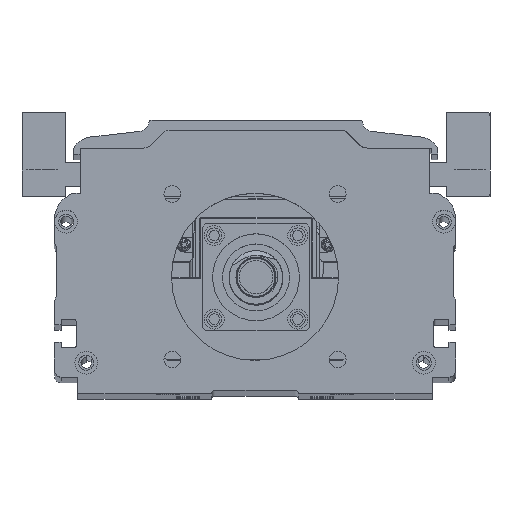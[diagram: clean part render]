
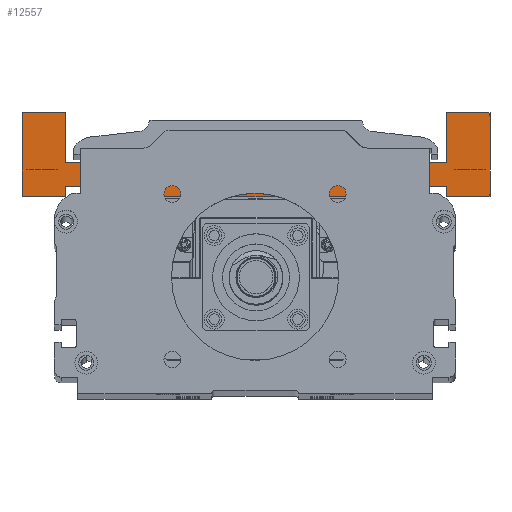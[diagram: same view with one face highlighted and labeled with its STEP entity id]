
A CAD part, top view. The second image highlights one B-rep face of the part: STEP entity #12557.
In plain terms, the highlighted planar face has unit normal (0, 0, 1) as drawn and (0, 0, -1) by its records, which use the part's own axes.
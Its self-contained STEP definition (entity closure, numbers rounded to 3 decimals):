
#30 = ORIENTED_EDGE ( 'NONE', *, *, #111524, .F. ) ;
#145 = VECTOR ( 'NONE', #18537, 1000. ) ;
#1026 = LINE ( 'NONE', #67263, #129481 ) ;
#2133 = DIRECTION ( 'NONE',  ( 1., 0., 0. ) ) ;
#2222 = CARTESIAN_POINT ( 'NONE',  ( 0., 0., 0. ) ) ;
#3971 = CARTESIAN_POINT ( 'NONE',  ( 121., -25., 0. ) ) ;
#3987 = EDGE_CURVE ( 'NONE', #6447, #62991, #17290, .T. ) ;
#4565 = VECTOR ( 'NONE', #101633, 1000. ) ;
#5262 = CARTESIAN_POINT ( 'NONE',  ( 42., -15., 0. ) ) ;
#6338 = VECTOR ( 'NONE', #101830, 1000. ) ;
#6447 = VERTEX_POINT ( 'NONE', #19418 ) ;
#8447 = EDGE_CURVE ( 'NONE', #41242, #6447, #18481, .T. ) ;
#9831 = CARTESIAN_POINT ( 'NONE',  ( 19., -25., 0. ) ) ;
#10353 = ORIENTED_EDGE ( 'NONE', *, *, #100833, .F. ) ;
#12557 = ADVANCED_FACE ( 'NONE', ( #63911 ), #19341, .F. ) ;
#13192 = VECTOR ( 'NONE', #2133, 1000. ) ;
#16396 = ORIENTED_EDGE ( 'NONE', *, *, #84420, .F. ) ;
#16492 = ORIENTED_EDGE ( 'NONE', *, *, #121159, .F. ) ;
#17050 = EDGE_CURVE ( 'NONE', #106799, #103905, #52464, .T. ) ;
#17290 = LINE ( 'NONE', #40675, #121822 ) ;
#17736 = DIRECTION ( 'NONE',  ( -1., 0., 0. ) ) ;
#18178 = VECTOR ( 'NONE', #94846, 1000. ) ;
#18481 = LINE ( 'NONE', #40232, #119851 ) ;
#18537 = DIRECTION ( 'NONE',  ( -1., 0., 0. ) ) ;
#19341 = PLANE ( 'NONE',  #73370 ) ;
#19418 = CARTESIAN_POINT ( 'NONE',  ( 13., -22., 0. ) ) ;
#21288 = DIRECTION ( 'NONE',  ( 0., 1., 0. ) ) ;
#22474 = CARTESIAN_POINT ( 'NONE',  ( 121., -22., 0. ) ) ;
#22665 = DIRECTION ( 'NONE',  ( 0., -1., 0. ) ) ;
#23065 = CARTESIAN_POINT ( 'NONE',  ( 0., -25., 0. ) ) ;
#24668 = VERTEX_POINT ( 'NONE', #102147 ) ;
#28592 = CARTESIAN_POINT ( 'NONE',  ( 127., -25., 0. ) ) ;
#30744 = LINE ( 'NONE', #9831, #81439 ) ;
#32703 = DIRECTION ( 'NONE',  ( 1., 0., 0. ) ) ;
#36288 = VERTEX_POINT ( 'NONE', #72362 ) ;
#39144 = VERTEX_POINT ( 'NONE', #58300 ) ;
#40144 = LINE ( 'NONE', #82823, #13192 ) ;
#40232 = CARTESIAN_POINT ( 'NONE',  ( 13., -25., 0. ) ) ;
#40317 = CARTESIAN_POINT ( 'NONE',  ( 0., -25., 0. ) ) ;
#40675 = CARTESIAN_POINT ( 'NONE',  ( 19., -22., 0. ) ) ;
#40990 = CARTESIAN_POINT ( 'NONE',  ( 0., -25., 0. ) ) ;
#41242 = VERTEX_POINT ( 'NONE', #62843 ) ;
#41687 = CARTESIAN_POINT ( 'NONE',  ( 13., -15., 0. ) ) ;
#42062 = ORIENTED_EDGE ( 'NONE', *, *, #117163, .F. ) ;
#43454 = VERTEX_POINT ( 'NONE', #56226 ) ;
#46821 = VECTOR ( 'NONE', #17736, 1000. ) ;
#47173 = LINE ( 'NONE', #41687, #124778 ) ;
#47877 = CARTESIAN_POINT ( 'NONE',  ( 140., 0., 0. ) ) ;
#48442 = VERTEX_POINT ( 'NONE', #68542 ) ;
#48517 = EDGE_LOOP ( 'NONE', ( #64056, #16492, #86327, #127558, #65840, #79933, #42062, #54959, #16396, #127462, #49803, #97401, #94071, #10353, #111131, #30 ) ) ;
#49271 = VECTOR ( 'NONE', #120209, 1000. ) ;
#49803 = ORIENTED_EDGE ( 'NONE', *, *, #3987, .F. ) ;
#49931 = DIRECTION ( 'NONE',  ( 1., 0., 0. ) ) ;
#50779 = VECTOR ( 'NONE', #32703, 1000. ) ;
#50860 = DIRECTION ( 'NONE',  ( 1., 0., 0. ) ) ;
#51770 = CARTESIAN_POINT ( 'NONE',  ( 127., 0., 0. ) ) ;
#52464 = LINE ( 'NONE', #28592, #49271 ) ;
#54959 = ORIENTED_EDGE ( 'NONE', *, *, #78812, .F. ) ;
#56226 = CARTESIAN_POINT ( 'NONE',  ( 140., -25., 0. ) ) ;
#58300 = CARTESIAN_POINT ( 'NONE',  ( 127., -15., 0. ) ) ;
#58539 = LINE ( 'NONE', #40990, #4565 ) ;
#60276 = LINE ( 'NONE', #91700, #6338 ) ;
#61220 = EDGE_CURVE ( 'NONE', #62991, #84450, #30744, .T. ) ;
#61763 = EDGE_CURVE ( 'NONE', #103905, #43454, #40144, .T. ) ;
#62172 = VERTEX_POINT ( 'NONE', #79192 ) ;
#62570 = LINE ( 'NONE', #23065, #18178 ) ;
#62843 = CARTESIAN_POINT ( 'NONE',  ( 13., -25., 0. ) ) ;
#62991 = VERTEX_POINT ( 'NONE', #103319 ) ;
#63911 = FACE_OUTER_BOUND ( 'NONE', #48517, .T. ) ;
#64056 = ORIENTED_EDGE ( 'NONE', *, *, #116743, .F. ) ;
#64960 = VECTOR ( 'NONE', #90023, 1000. ) ;
#65840 = ORIENTED_EDGE ( 'NONE', *, *, #61763, .F. ) ;
#67263 = CARTESIAN_POINT ( 'NONE',  ( 127., 0., 0. ) ) ;
#68542 = CARTESIAN_POINT ( 'NONE',  ( 13., 0., 0. ) ) ;
#70352 = DIRECTION ( 'NONE',  ( 0., 1., 0. ) ) ;
#71481 = EDGE_CURVE ( 'NONE', #43454, #36288, #60276, .T. ) ;
#72362 = CARTESIAN_POINT ( 'NONE',  ( 140., 0., 0. ) ) ;
#73370 = AXIS2_PLACEMENT_3D ( 'NONE', #130541, #110554, #49931 ) ;
#75107 = VERTEX_POINT ( 'NONE', #51770 ) ;
#76234 = VECTOR ( 'NONE', #76236, 1000. ) ;
#76236 = DIRECTION ( 'NONE',  ( -1., 0., 0. ) ) ;
#77469 = DIRECTION ( 'NONE',  ( 0., -1., 0. ) ) ;
#77936 = LINE ( 'NONE', #89438, #145 ) ;
#78812 = EDGE_CURVE ( 'NONE', #130102, #92802, #91914, .T. ) ;
#79192 = CARTESIAN_POINT ( 'NONE',  ( 0., 0., 0. ) ) ;
#79933 = ORIENTED_EDGE ( 'NONE', *, *, #17050, .F. ) ;
#81439 = VECTOR ( 'NONE', #131254, 1000. ) ;
#82823 = CARTESIAN_POINT ( 'NONE',  ( 0., -25., 0. ) ) ;
#84420 = EDGE_CURVE ( 'NONE', #84450, #130102, #62570, .T. ) ;
#84450 = VERTEX_POINT ( 'NONE', #85110 ) ;
#85110 = CARTESIAN_POINT ( 'NONE',  ( 19., -25., 0. ) ) ;
#86327 = ORIENTED_EDGE ( 'NONE', *, *, #87201, .F. ) ;
#87201 = EDGE_CURVE ( 'NONE', #36288, #75107, #127606, .T. ) ;
#89438 = CARTESIAN_POINT ( 'NONE',  ( 13., 0., 0. ) ) ;
#89585 = CARTESIAN_POINT ( 'NONE',  ( 121., -25., 0. ) ) ;
#90023 = DIRECTION ( 'NONE',  ( 0., 1., 0. ) ) ;
#91700 = CARTESIAN_POINT ( 'NONE',  ( 140., -25., 0. ) ) ;
#91914 = LINE ( 'NONE', #89585, #64960 ) ;
#92802 = VERTEX_POINT ( 'NONE', #106191 ) ;
#93763 = EDGE_CURVE ( 'NONE', #109487, #41242, #58539, .T. ) ;
#94071 = ORIENTED_EDGE ( 'NONE', *, *, #93763, .F. ) ;
#94759 = EDGE_CURVE ( 'NONE', #48442, #62172, #77936, .T. ) ;
#94846 = DIRECTION ( 'NONE',  ( 1., 0., 0. ) ) ;
#97401 = ORIENTED_EDGE ( 'NONE', *, *, #8447, .F. ) ;
#100499 = VECTOR ( 'NONE', #22665, 1000. ) ;
#100833 = EDGE_CURVE ( 'NONE', #62172, #109487, #103723, .T. ) ;
#101633 = DIRECTION ( 'NONE',  ( 1., 0., 0. ) ) ;
#101830 = DIRECTION ( 'NONE',  ( 0., 1., 0. ) ) ;
#102147 = CARTESIAN_POINT ( 'NONE',  ( 13., -15., 0. ) ) ;
#103131 = LINE ( 'NONE', #5262, #76234 ) ;
#103319 = CARTESIAN_POINT ( 'NONE',  ( 19., -22., 0. ) ) ;
#103723 = LINE ( 'NONE', #2222, #100499 ) ;
#103905 = VERTEX_POINT ( 'NONE', #127140 ) ;
#106191 = CARTESIAN_POINT ( 'NONE',  ( 121., -22., 0. ) ) ;
#106799 = VERTEX_POINT ( 'NONE', #116050 ) ;
#109487 = VERTEX_POINT ( 'NONE', #40317 ) ;
#110554 = DIRECTION ( 'NONE',  ( 0., 0., 1. ) ) ;
#111131 = ORIENTED_EDGE ( 'NONE', *, *, #94759, .F. ) ;
#111524 = EDGE_CURVE ( 'NONE', #24668, #48442, #47173, .T. ) ;
#116050 = CARTESIAN_POINT ( 'NONE',  ( 127., -22., 0. ) ) ;
#116743 = EDGE_CURVE ( 'NONE', #39144, #24668, #103131, .T. ) ;
#117163 = EDGE_CURVE ( 'NONE', #92802, #106799, #125231, .T. ) ;
#119851 = VECTOR ( 'NONE', #70352, 1000. ) ;
#120209 = DIRECTION ( 'NONE',  ( 0., -1., 0. ) ) ;
#121159 = EDGE_CURVE ( 'NONE', #75107, #39144, #1026, .T. ) ;
#121822 = VECTOR ( 'NONE', #50860, 1000. ) ;
#124778 = VECTOR ( 'NONE', #21288, 1000. ) ;
#125231 = LINE ( 'NONE', #22474, #50779 ) ;
#127140 = CARTESIAN_POINT ( 'NONE',  ( 127., -25., 0. ) ) ;
#127462 = ORIENTED_EDGE ( 'NONE', *, *, #61220, .F. ) ;
#127558 = ORIENTED_EDGE ( 'NONE', *, *, #71481, .F. ) ;
#127606 = LINE ( 'NONE', #47877, #46821 ) ;
#129481 = VECTOR ( 'NONE', #77469, 1000. ) ;
#130102 = VERTEX_POINT ( 'NONE', #3971 ) ;
#130541 = CARTESIAN_POINT ( 'NONE',  ( 0., 0., 0. ) ) ;
#131254 = DIRECTION ( 'NONE',  ( 0., -1., 0. ) ) ;
